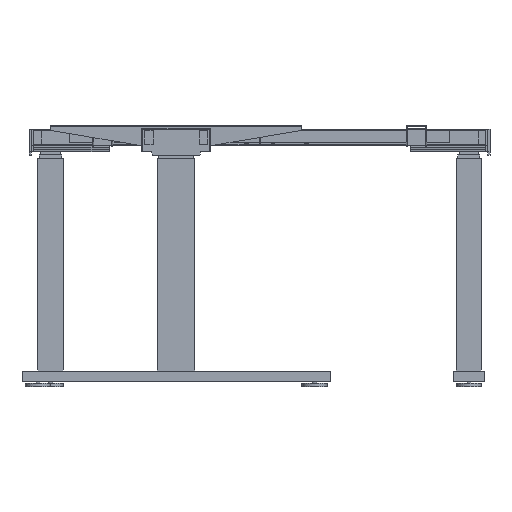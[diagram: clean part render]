
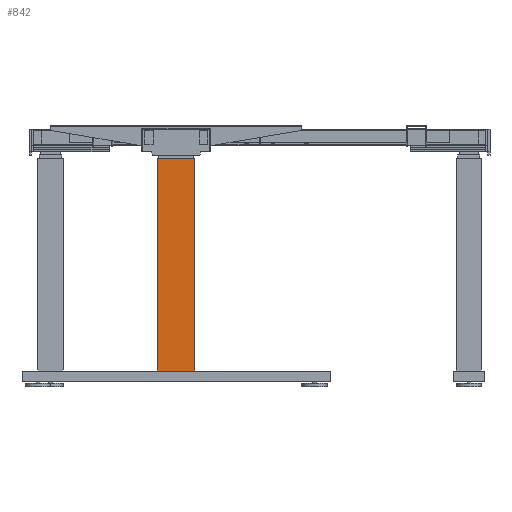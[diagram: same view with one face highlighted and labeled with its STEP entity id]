
A CAD part, front view. The second image highlights one B-rep face of the part: STEP entity #842.
In plain terms, the highlighted planar face has unit normal (0, -1, 0) as drawn and (-1, 0, 0) by its records, which use the part's own axes.
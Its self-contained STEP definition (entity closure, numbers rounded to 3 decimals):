
#842 = ADVANCED_FACE( '', ( #1881 ), #1882, .F. );
#1881 = FACE_OUTER_BOUND( '', #3371, .T. );
#1882 = PLANE( '', #3372 );
#3371 = EDGE_LOOP( '', ( #5181, #5182, #5183, #5184 ) );
#3372 = AXIS2_PLACEMENT_3D( '', #5185, #5186, #5187 );
#5181 = ORIENTED_EDGE( '', *, *, #8289, .F. );
#5182 = ORIENTED_EDGE( '', *, *, #7986, .F. );
#5183 = ORIENTED_EDGE( '', *, *, #8290, .F. );
#5184 = ORIENTED_EDGE( '', *, *, #8291, .F. );
#5185 = CARTESIAN_POINT( '', ( -30., 0., 0. ) );
#5186 = DIRECTION( '', ( 1., 0., 0. ) );
#5187 = DIRECTION( '', ( 0., 0., -1. ) );
#7986 = EDGE_CURVE( '', #9313, #9314, #9315, .T. );
#8289 = EDGE_CURVE( '', #9314, #9836, #9837, .T. );
#8290 = EDGE_CURVE( '', #9838, #9313, #9839, .T. );
#8291 = EDGE_CURVE( '', #9836, #9838, #9840, .T. );
#9313 = VERTEX_POINT( '', #11274 );
#9314 = VERTEX_POINT( '', #11275 );
#9315 = LINE( '', #11276, #11277 );
#9836 = VERTEX_POINT( '', #11977 );
#9837 = LINE( '', #11978, #11979 );
#9838 = VERTEX_POINT( '', #11980 );
#9839 = LINE( '', #11981, #11982 );
#9840 = LINE( '', #11983, #11984 );
#11274 = CARTESIAN_POINT( '', ( -30., 45., 508. ) );
#11275 = CARTESIAN_POINT( '', ( -30., -45., 508. ) );
#11276 = CARTESIAN_POINT( '', ( -30., 45., 508. ) );
#11277 = VECTOR( '', #13782, 1000. );
#11977 = CARTESIAN_POINT( '', ( -30., -45., 0. ) );
#11978 = CARTESIAN_POINT( '', ( -30., -45., 508. ) );
#11979 = VECTOR( '', #14142, 1000. );
#11980 = CARTESIAN_POINT( '', ( -30., 45., 0. ) );
#11981 = CARTESIAN_POINT( '', ( -30., 45., 0. ) );
#11982 = VECTOR( '', #14143, 1000. );
#11983 = CARTESIAN_POINT( '', ( -30., -45., 0. ) );
#11984 = VECTOR( '', #14144, 1000. );
#13782 = DIRECTION( '', ( 0., -1., 0. ) );
#14142 = DIRECTION( '', ( 0., 0., -1. ) );
#14143 = DIRECTION( '', ( 0., 0., 1. ) );
#14144 = DIRECTION( '', ( 0., 1., 0. ) );
